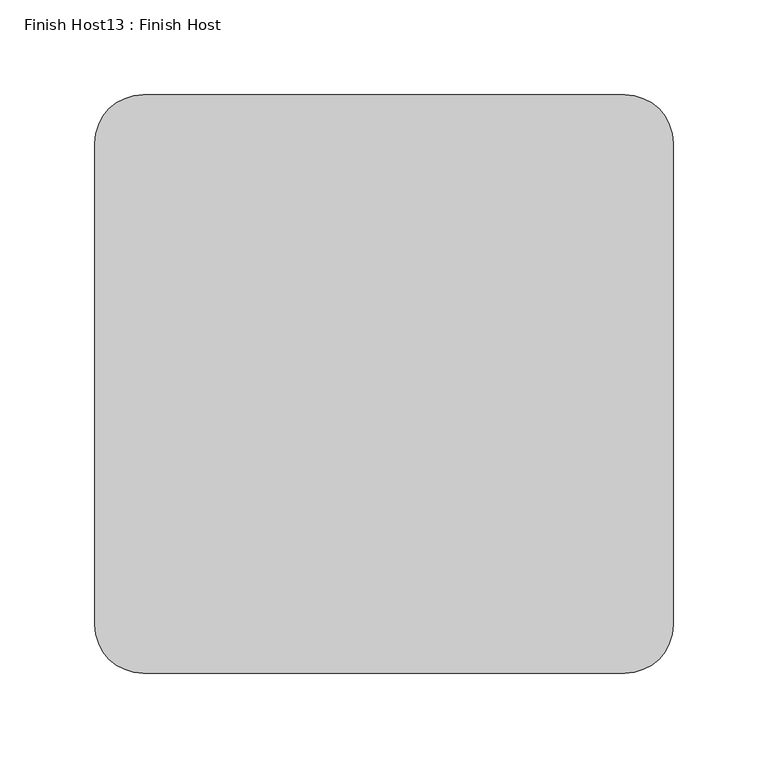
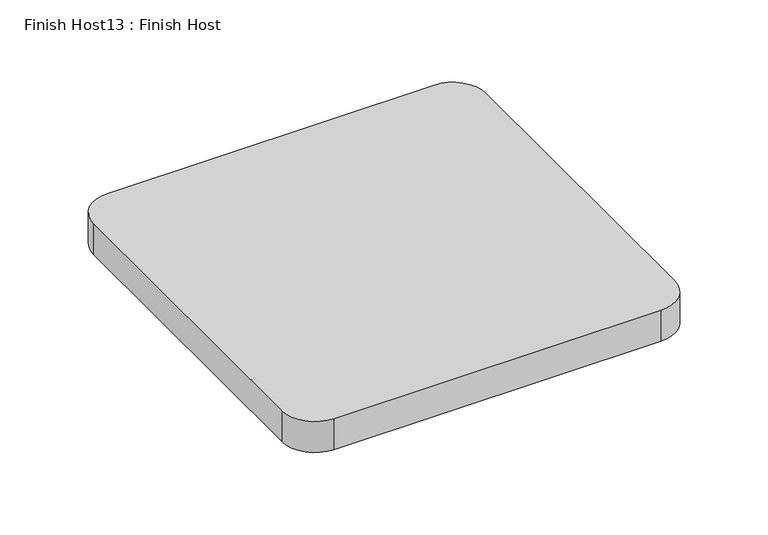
"""IFC4 building model written with IfcOpenShell, lengths in millimetres: proxy geometry, Finish Host13 : Finish Host."""

from ifc_helpers import new_model, si_unit, point, frame_2d, origin, origin_with_axes, place, context, project, spatial, polyline, circle_curve, trimmed, segment, composite_curve, outline, extrude, source, transform, mapped, element, save


def finish_host13_finish_host_149cf516(model_context):
    return source(origin(), model_context, "Body", "SweptSolid", [
        extrude(outline(composite_curve([segment(polyline([(2409.3649374, 2023.3667263), (2409.3649374, 2277.3667263)]), True, "CONTINUOUS"), segment(trimmed(circle_curve(frame_2d((2434.7649374, 2277.3667263)), 25.4), [point((2409.3649374, 2277.3667263))], [point((2434.7649374, 2302.7667263))], False, "CARTESIAN"), True, "CONTINUOUS"), segment(polyline([(2434.7649374, 2302.7667263), (2688.7649374, 2302.7667263)]), True, "CONTINUOUS"), segment(trimmed(circle_curve(frame_2d((2688.7649374, 2277.3667263)), 25.4), [point((2688.7649374, 2302.7667263))], [point((2714.1649374, 2277.3667263))], False, "CARTESIAN"), True, "CONTINUOUS"), segment(polyline([(2714.1649374, 2277.3667263), (2714.1649374, 2023.3667263)]), True, "CONTINUOUS"), segment(trimmed(circle_curve(frame_2d((2688.7649374, 2023.3667263)), 25.4), [point((2714.1649374, 2023.3667263))], [point((2688.7649374, 1997.9667263))], False, "CARTESIAN"), True, "CONTINUOUS"), segment(polyline([(2688.7649374, 1997.9667263), (2434.7649374, 1997.9667263)]), True, "CONTINUOUS"), segment(trimmed(circle_curve(frame_2d((2434.7649374, 2023.3667263)), 25.4), [point((2434.7649374, 1997.9667263))], [point((2409.3649374, 2023.3667263))], False, "CARTESIAN"), True, "CONTINUOUS")], self_intersect=False)), origin_with_axes(), (0.0, 0.0, 1.0), 25.4),
    ])


if __name__ == "__main__":
    model = new_model("IFC4")
    model_context = context("Model", 3, world=origin())
    ifc_project = project(units=[si_unit("LENGTHUNIT", "METRE", prefix="MILLI")], contexts=[model_context])
    site = spatial("IfcSite", under=ifc_project)
    building = spatial("IfcBuilding", under=site)
    placement = place(None, origin())
    finish_host13_finish_host_shape = finish_host13_finish_host_149cf516(model_context)
    element("IfcBuildingElementProxy", 1, Name="Finish Host13 : Finish Host", ObjectType="Finish Host13 : Finish Host", at=placement, inside=building, context=model_context, shape_type="MappedRepresentation", body=[
        mapped(finish_host13_finish_host_shape, transform((0.0, 0.0, 0.0), x_axis=(1.0, 0.0, 0.0), y_axis=(0.0, 1.0, 0.0), z_axis=(0.0, 0.0, 1.0))),
    ])
    save(model, "model.ifc")
